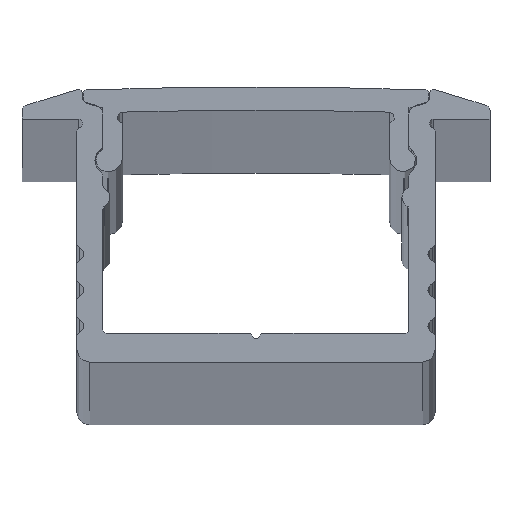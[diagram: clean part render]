
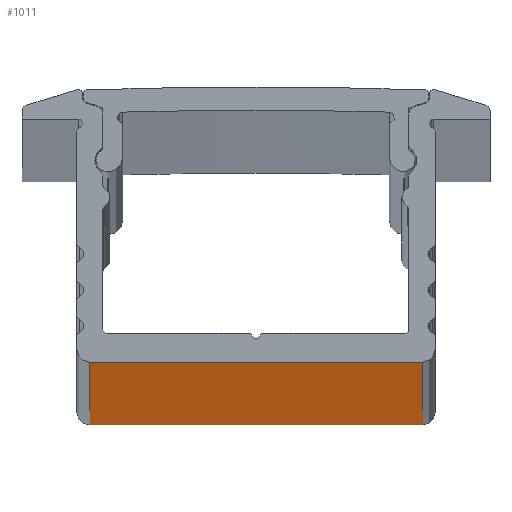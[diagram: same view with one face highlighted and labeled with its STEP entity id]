
A CAD part, top view. The second image highlights one B-rep face of the part: STEP entity #1011.
In plain terms, the highlighted planar face has unit normal (0, -1, 0).
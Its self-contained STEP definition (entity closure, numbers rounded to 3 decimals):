
#17 = CARTESIAN_POINT ( 'NONE',  ( -9.25, 0., -1000. ) ) ;
#66 = CARTESIAN_POINT ( 'NONE',  ( -9.25, 0., 1000. ) ) ;
#410 = LINE ( 'NONE', #66, #1697 ) ;
#557 = EDGE_CURVE ( 'NONE', #3958, #2045, #3018, .T. ) ;
#708 = CARTESIAN_POINT ( 'NONE',  ( -9.25, 0., 1000. ) ) ;
#767 = VERTEX_POINT ( 'NONE', #1572 ) ;
#948 = DIRECTION ( 'NONE',  ( 0., 0., -1. ) ) ;
#1010 = VECTOR ( 'NONE', #948, 1000. ) ;
#1011 = ADVANCED_FACE ( 'NONE', ( #1059 ), #2294, .F. ) ;
#1043 = CARTESIAN_POINT ( 'NONE',  ( -9.25, 0., -1000. ) ) ;
#1059 = FACE_OUTER_BOUND ( 'NONE', #4053, .T. ) ;
#1125 = EDGE_CURVE ( 'NONE', #767, #3958, #2217, .T. ) ;
#1450 = ORIENTED_EDGE ( 'NONE', *, *, #3695, .F. ) ;
#1572 = CARTESIAN_POINT ( 'NONE',  ( -9.25, 0., 1000. ) ) ;
#1590 = ORIENTED_EDGE ( 'NONE', *, *, #557, .T. ) ;
#1697 = VECTOR ( 'NONE', #2358, 1000. ) ;
#1703 = DIRECTION ( 'NONE',  ( 0., 0., 1. ) ) ;
#1898 = CARTESIAN_POINT ( 'NONE',  ( -9.25, 0., 1000. ) ) ;
#1977 = LINE ( 'NONE', #3883, #1010 ) ;
#2035 = CARTESIAN_POINT ( 'NONE',  ( 9.25, 0., 1000. ) ) ;
#2045 = VERTEX_POINT ( 'NONE', #3012 ) ;
#2217 = LINE ( 'NONE', #1898, #3547 ) ;
#2294 = PLANE ( 'NONE',  #3626 ) ;
#2358 = DIRECTION ( 'NONE',  ( 1., 0., 0. ) ) ;
#2359 = DIRECTION ( 'NONE',  ( 1., 0., 0. ) ) ;
#2506 = ORIENTED_EDGE ( 'NONE', *, *, #1125, .T. ) ;
#2519 = ORIENTED_EDGE ( 'NONE', *, *, #3933, .F. ) ;
#2874 = VERTEX_POINT ( 'NONE', #2035 ) ;
#3012 = CARTESIAN_POINT ( 'NONE',  ( 9.25, 0., -1000. ) ) ;
#3018 = LINE ( 'NONE', #1043, #3453 ) ;
#3269 = DIRECTION ( 'NONE',  ( 0., 1., 0. ) ) ;
#3453 = VECTOR ( 'NONE', #2359, 1000. ) ;
#3547 = VECTOR ( 'NONE', #3575, 1000. ) ;
#3575 = DIRECTION ( 'NONE',  ( 0., 0., -1. ) ) ;
#3626 = AXIS2_PLACEMENT_3D ( 'NONE', #708, #3269, #1703 ) ;
#3695 = EDGE_CURVE ( 'NONE', #767, #2874, #410, .T. ) ;
#3883 = CARTESIAN_POINT ( 'NONE',  ( 9.25, 0., 1000. ) ) ;
#3933 = EDGE_CURVE ( 'NONE', #2874, #2045, #1977, .T. ) ;
#3958 = VERTEX_POINT ( 'NONE', #17 ) ;
#4053 = EDGE_LOOP ( 'NONE', ( #1590, #2519, #1450, #2506 ) ) ;
